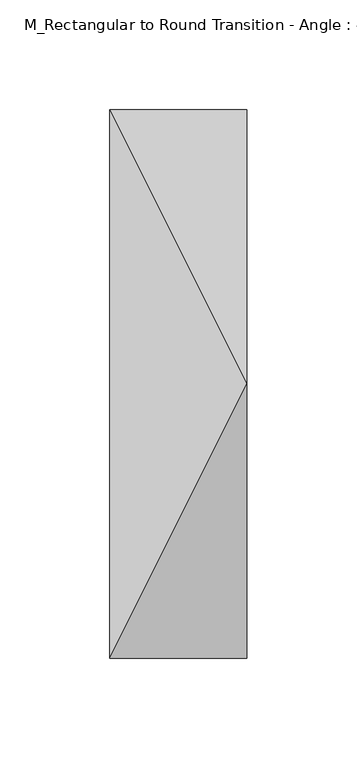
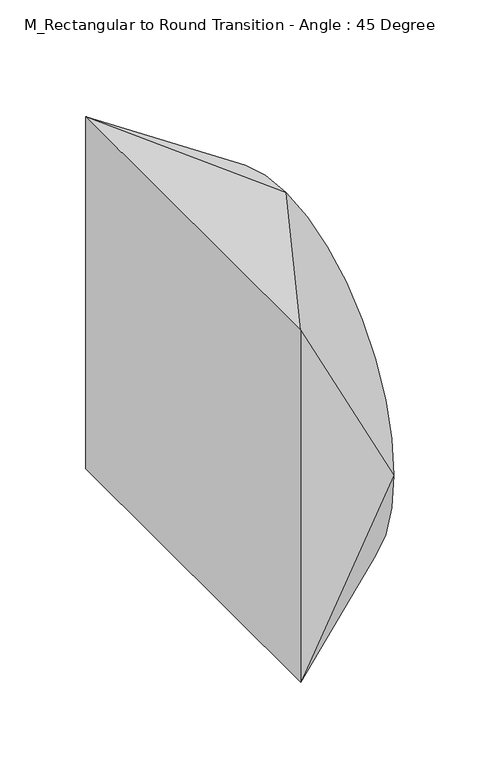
"""IFC4 building model written with IfcOpenShell, lengths in millimetres: duct fitting geometry, M_Rectangular to Round Transition - Angle : 45 Degree."""

from ifc_helpers import new_model, si_unit, frame, origin, place, context, project, spatial, circle_curve, source, transform, mapped, element, save
from ifc_brep_helpers import plane_surface, spline_surface, advanced_brep


def m_rectangular_to_round_transition_angle_45_degree_26f3b062(model_context):
    return source(origin(), model_context, "Body", "AdvancedBrep", [
        advanced_brep(
        [(0.0, -125.0, -125.0), (0.0, -125.0, 125.0), (0.0, 125.0, 125.0), (0.0, 125.0, -125.0), (62.5, -125.0, 0.0), (62.5, 0.0, -125.0), (62.5, 125.0, 0.0), (62.5, 0.0, 125.0)],
        [
            (0, 1),
            (1, 2),
            (2, 3),
            (3, 0),
            (4, 5, circle_curve(frame((62.5, 0.0, 0.0), z_axis=(1.0, 0.0, 0.0), x_axis=(0.0, -1.0, 0.0)), 125.0)),
            (5, 6, circle_curve(frame((62.5, 0.0, 0.0), z_axis=(1.0, 0.0, 0.0), x_axis=(0.0, -1.0, 0.0)), 125.0)),
            (6, 7, circle_curve(frame((62.5, 0.0, 0.0), z_axis=(1.0, 0.0, 0.0), x_axis=(0.0, -1.0, 0.0)), 125.0)),
            (7, 4, circle_curve(frame((62.5, 0.0, 0.0), z_axis=(1.0, 0.0, 0.0), x_axis=(0.0, -1.0, 0.0)), 125.0)),
            (0, 4),
            (4, 1),
            (7, 1),
            (7, 2),
            (6, 2),
            (6, 3),
            (5, 3),
            (5, 0),
        ],
        [
            plane_surface(frame((0.0, 0.0, 0.0), z_axis=(-1.0, 0.0, 0.0), x_axis=(0.0, 1.0, 0.0))),
            plane_surface(frame((62.5, 0.0, 0.0), z_axis=(1.0, 0.0, 0.0), x_axis=(0.0, 1.0, 0.0))),
            plane_surface(frame((62.5, -125.0, 0.0), z_axis=(0.0, -1.0, 0.0), x_axis=(0.0, 0.0, 1.0))),
            spline_surface(2, 1, [[(62.5, -125.0, 0.0), (0.0, -125.0, 125.0)], [(62.5, -125.0, 125.0), (0.0, -125.0, 125.0)], [(62.5, 0.0, 125.0), (0.0, -125.0, 125.0)]], [3, 3], [2, 2], [0.0, 1.0], [0.0, 1.0], weights=[[1.0, 1.0], [0.7071067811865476, 0.7071067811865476], [1.0, 1.0]]),
            plane_surface(frame((62.5, 0.0, 125.0), z_axis=(0.0, 0.0, 1.0), x_axis=(0.0, 1.0, 0.0))),
            spline_surface(2, 1, [[(62.5, 0.0, 125.0), (0.0, 125.0, 125.0)], [(62.5, 125.0, 125.0), (0.0, 125.0, 125.0)], [(62.5, 125.0, 0.0), (0.0, 125.0, 125.0)]], [3, 3], [2, 2], [0.0, 1.0], [0.0, 1.0], weights=[[1.0, 1.0], [0.7071067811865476, 0.7071067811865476], [1.0, 1.0]]),
            plane_surface(frame((62.5, 125.0, 0.0), z_axis=(0.0, 1.0, 0.0), x_axis=(0.0, 0.0, -1.0))),
            spline_surface(2, 1, [[(62.5, 125.0, 0.0), (0.0, 125.0, -125.0)], [(62.5, 125.0, -125.0), (0.0, 125.0, -125.0)], [(62.5, 0.0, -125.0), (0.0, 125.0, -125.0)]], [3, 3], [2, 2], [0.0, 1.0], [0.0, 1.0], weights=[[1.0, 1.0], [0.7071067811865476, 0.7071067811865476], [1.0, 1.0]]),
            plane_surface(frame((62.5, 0.0, -125.0), z_axis=(0.0, 0.0, -1.0), x_axis=(0.0, -1.0, 0.0))),
            spline_surface(2, 1, [[(62.5, 0.0, -125.0), (0.0, -125.0, -125.0)], [(62.5, -125.0, -125.0), (0.0, -125.0, -125.0)], [(62.5, -125.0, 0.0), (0.0, -125.0, -125.0)]], [3, 3], [2, 2], [0.0, 1.0], [0.0, 1.0], weights=[[1.0, 1.0], [0.7071067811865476, 0.7071067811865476], [1.0, 1.0]]),
        ],
        [
            (0, [[1, 2, 3, 4]]),
            (1, [[5, 6, 7, 8]]),
            (2, [[-1, 9, 10]]),
            (3, [[-8, 11, -10]]),
            (4, [[-2, -11, 12]]),
            (5, [[-7, 13, -12]]),
            (6, [[-3, -13, 14]]),
            (7, [[-6, 15, -14]]),
            (8, [[-4, -15, 16]]),
            (9, [[-5, -9, -16]]),
        ],
    ),
        advanced_brep(
        [(0.0, -125.0, -125.0), (0.0, -125.0, 125.0), (0.0, 125.0, 125.0), (0.0, 125.0, -125.0), (62.5, -125.0, 0.0), (62.5, 0.0, -125.0), (62.5, 125.0, 0.0), (62.5, 0.0, 125.0)],
        [
            (0, 1),
            (1, 2),
            (2, 3),
            (3, 0),
            (4, 5, circle_curve(frame((62.5, 0.0, 0.0), z_axis=(1.0, 0.0, 0.0), x_axis=(0.0, -1.0, 0.0)), 125.0)),
            (5, 6, circle_curve(frame((62.5, 0.0, 0.0), z_axis=(1.0, 0.0, 0.0), x_axis=(0.0, -1.0, 0.0)), 125.0)),
            (6, 7, circle_curve(frame((62.5, 0.0, 0.0), z_axis=(1.0, 0.0, 0.0), x_axis=(0.0, -1.0, 0.0)), 125.0)),
            (7, 4, circle_curve(frame((62.5, 0.0, 0.0), z_axis=(1.0, 0.0, 0.0), x_axis=(0.0, -1.0, 0.0)), 125.0)),
            (0, 4),
            (4, 1),
            (7, 1),
            (7, 2),
            (6, 2),
            (6, 3),
            (5, 3),
            (5, 0),
        ],
        [
            plane_surface(frame((0.0, 0.0, 0.0), z_axis=(-1.0, 0.0, 0.0), x_axis=(0.0, 1.0, 0.0))),
            plane_surface(frame((62.5, 0.0, 0.0), z_axis=(1.0, 0.0, 0.0), x_axis=(0.0, 1.0, 0.0))),
            plane_surface(frame((62.5, -125.0, 0.0), z_axis=(0.0, -1.0, 0.0), x_axis=(0.0, 0.0, 1.0))),
            spline_surface(2, 1, [[(62.5, -125.0, 0.0), (0.0, -125.0, 125.0)], [(62.5, -125.0, 125.0), (0.0, -125.0, 125.0)], [(62.5, 0.0, 125.0), (0.0, -125.0, 125.0)]], [3, 3], [2, 2], [0.0, 1.0], [0.0, 1.0], weights=[[1.0, 1.0], [0.7071067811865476, 0.7071067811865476], [1.0, 1.0]]),
            plane_surface(frame((62.5, 0.0, 125.0), z_axis=(0.0, 0.0, 1.0), x_axis=(0.0, 1.0, 0.0))),
            spline_surface(2, 1, [[(62.5, 0.0, 125.0), (0.0, 125.0, 125.0)], [(62.5, 125.0, 125.0), (0.0, 125.0, 125.0)], [(62.5, 125.0, 0.0), (0.0, 125.0, 125.0)]], [3, 3], [2, 2], [0.0, 1.0], [0.0, 1.0], weights=[[1.0, 1.0], [0.7071067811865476, 0.7071067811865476], [1.0, 1.0]]),
            plane_surface(frame((62.5, 125.0, 0.0), z_axis=(0.0, 1.0, 0.0), x_axis=(0.0, 0.0, -1.0))),
            spline_surface(2, 1, [[(62.5, 125.0, 0.0), (0.0, 125.0, -125.0)], [(62.5, 125.0, -125.0), (0.0, 125.0, -125.0)], [(62.5, 0.0, -125.0), (0.0, 125.0, -125.0)]], [3, 3], [2, 2], [0.0, 1.0], [0.0, 1.0], weights=[[1.0, 1.0], [0.7071067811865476, 0.7071067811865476], [1.0, 1.0]]),
            plane_surface(frame((62.5, 0.0, -125.0), z_axis=(0.0, 0.0, -1.0), x_axis=(0.0, -1.0, 0.0))),
            spline_surface(2, 1, [[(62.5, 0.0, -125.0), (0.0, -125.0, -125.0)], [(62.5, -125.0, -125.0), (0.0, -125.0, -125.0)], [(62.5, -125.0, 0.0), (0.0, -125.0, -125.0)]], [3, 3], [2, 2], [0.0, 1.0], [0.0, 1.0], weights=[[1.0, 1.0], [0.7071067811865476, 0.7071067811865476], [1.0, 1.0]]),
        ],
        [
            (0, [[1, 2, 3, 4]]),
            (1, [[5, 6, 7, 8]]),
            (2, [[-1, 9, 10]]),
            (3, [[-8, 11, -10]]),
            (4, [[-2, -11, 12]]),
            (5, [[-7, 13, -12]]),
            (6, [[-3, -13, 14]]),
            (7, [[-6, 15, -14]]),
            (8, [[-4, -15, 16]]),
            (9, [[-5, -9, -16]]),
        ],
    ),
        advanced_brep(
        [(62.5, 0.0, 125.0), (62.5, -125.0, 0.0), (62.5, 0.0, -125.0), (62.5, 125.0, 0.0), (0.0, -125.0, 125.0), (0.0, 125.0, 125.0), (0.0, 125.0, -125.0), (0.0, -125.0, -125.0)],
        [
            (0, 1, circle_curve(frame((62.5, 0.0, 0.0), z_axis=(1.0, 0.0, 0.0), x_axis=(0.0, 1.0, 0.0)), 125.0)),
            (1, 2, circle_curve(frame((62.5, 0.0, 0.0), z_axis=(1.0, 0.0, 0.0), x_axis=(0.0, 1.0, 0.0)), 125.0)),
            (2, 3, circle_curve(frame((62.5, 0.0, 0.0), z_axis=(1.0, 0.0, 0.0), x_axis=(0.0, 1.0, 0.0)), 125.0)),
            (3, 0, circle_curve(frame((62.5, 0.0, 0.0), z_axis=(1.0, 0.0, 0.0), x_axis=(0.0, 1.0, 0.0)), 125.0)),
            (4, 5),
            (5, 6),
            (6, 7),
            (7, 4),
            (0, 4),
            (4, 1),
            (7, 1),
            (7, 2),
            (6, 2),
            (6, 3),
            (5, 3),
            (5, 0),
        ],
        [
            plane_surface(frame((62.5, 0.0, 0.0), z_axis=(1.0, 0.0, 0.0), x_axis=(0.0, 0.0, -1.0))),
            plane_surface(frame((0.0, 0.0, 0.0), z_axis=(-1.0, 0.0, 0.0), x_axis=(0.0, 0.0, -1.0))),
            spline_surface(2, 1, [[(0.0, -125.0, 125.0), (62.5, 0.0, 125.0)], [(0.0, -125.0, 125.0), (62.5, -125.0, 125.0)], [(0.0, -125.0, 125.0), (62.5, -125.0, 0.0)]], [3, 3], [2, 2], [0.0, 1.0], [0.0, 1.0], weights=[[1.0, 1.0], [0.7071067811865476, 0.7071067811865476], [1.0, 1.0]]),
            plane_surface(frame((0.0, -125.0, 0.0), z_axis=(0.0, -1.0, 0.0), x_axis=(0.0, 0.0, -1.0))),
            spline_surface(2, 1, [[(0.0, -125.0, -125.0), (62.5, -125.0, 0.0)], [(0.0, -125.0, -125.0), (62.5, -125.0, -125.0)], [(0.0, -125.0, -125.0), (62.5, 0.0, -125.0)]], [3, 3], [2, 2], [0.0, 1.0], [0.0, 1.0], weights=[[1.0, 1.0], [0.7071067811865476, 0.7071067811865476], [1.0, 1.0]]),
            plane_surface(frame((0.0, 0.0, -125.0), z_axis=(0.0, 0.0, -1.0), x_axis=(0.0, 1.0, 0.0))),
            spline_surface(2, 1, [[(0.0, 125.0, -125.0), (62.5, 0.0, -125.0)], [(0.0, 125.0, -125.0), (62.5, 125.0, -125.0)], [(0.0, 125.0, -125.0), (62.5, 125.0, 0.0)]], [3, 3], [2, 2], [0.0, 1.0], [0.0, 1.0], weights=[[1.0, 1.0], [0.7071067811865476, 0.7071067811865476], [1.0, 1.0]]),
            plane_surface(frame((0.0, 125.0, 0.0), z_axis=(0.0, 1.0, 0.0), x_axis=(0.0, 0.0, 1.0))),
            spline_surface(2, 1, [[(0.0, 125.0, 125.0), (62.5, 125.0, 0.0)], [(0.0, 125.0, 125.0), (62.5, 125.0, 125.0)], [(0.0, 125.0, 125.0), (62.5, 0.0, 125.0)]], [3, 3], [2, 2], [0.0, 1.0], [0.0, 1.0], weights=[[1.0, 1.0], [0.7071067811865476, 0.7071067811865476], [1.0, 1.0]]),
            plane_surface(frame((0.0, 0.0, 125.0), z_axis=(0.0, 0.0, 1.0), x_axis=(0.0, -1.0, 0.0))),
        ],
        [
            (0, [[1, 2, 3, 4]]),
            (1, [[5, 6, 7, 8]]),
            (2, [[-1, 9, 10]]),
            (3, [[-8, 11, -10]]),
            (4, [[-2, -11, 12]]),
            (5, [[-7, 13, -12]]),
            (6, [[-3, -13, 14]]),
            (7, [[-6, 15, -14]]),
            (8, [[-4, -15, 16]]),
            (9, [[-5, -9, -16]]),
        ],
    ),
    ])


if __name__ == "__main__":
    model = new_model("IFC4")
    model_context = context("Model", 3, world=origin())
    ifc_project = project(units=[si_unit("LENGTHUNIT", "METRE", prefix="MILLI")], contexts=[model_context])
    site = spatial("IfcSite", under=ifc_project)
    building = spatial("IfcBuilding", under=site)
    placement = place(None, origin())
    m_rectangular_to_round_transition_angle_45_degree_shape = m_rectangular_to_round_transition_angle_45_degree_26f3b062(model_context)
    element("IfcDuctFitting", 1, ObjectType="M_Rectangular to Round Transition - Angle : 45 Degree", at=placement, inside=building, context=model_context, shape_type="MappedRepresentation", body=[
        mapped(m_rectangular_to_round_transition_angle_45_degree_shape, transform((0.0, 0.0, 0.0), x_axis=(1.0, 0.0, 0.0), y_axis=(0.0, 1.0, 0.0), z_axis=(0.0, 0.0, 1.0))),
    ])
    save(model, "model.ifc")
